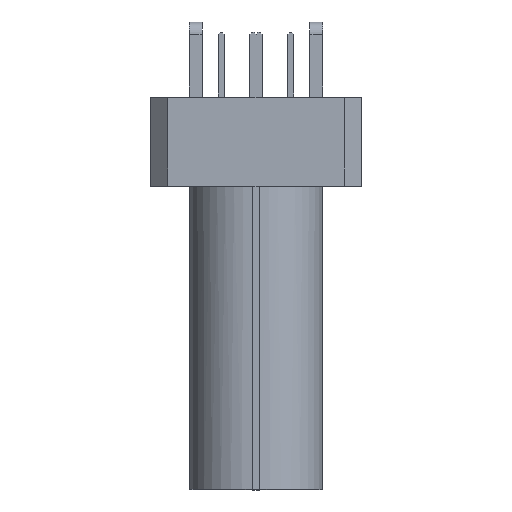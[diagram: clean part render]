
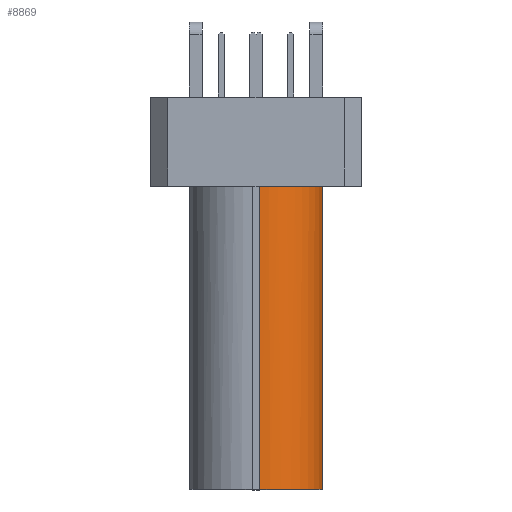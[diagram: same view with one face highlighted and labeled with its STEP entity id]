
A CAD part, top view. The second image highlights one B-rep face of the part: STEP entity #8869.
In plain terms, the highlighted cylindrical face has radius 1.5 mm (diameter 3 mm), a partial arc.
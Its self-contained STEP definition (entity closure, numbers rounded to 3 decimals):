
#780 = CARTESIAN_POINT ( 'NONE',  ( 0.08, 2.3, 4.47 ) ) ;
#1294 = CARTESIAN_POINT ( 'NONE',  ( 0.08, -4.9, 2.97 ) ) ;
#1373 = DIRECTION ( 'NONE',  ( 0., 0., 1. ) ) ;
#1861 = VECTOR ( 'NONE', #12221, 1000. ) ;
#2401 = AXIS2_PLACEMENT_3D ( 'NONE', #1294, #6469, #6540 ) ;
#2464 = CARTESIAN_POINT ( 'NONE',  ( 1.58, 2.3, 2.97 ) ) ;
#2707 = AXIS2_PLACEMENT_3D ( 'NONE', #9151, #6025, #10479 ) ;
#2929 = CIRCLE ( 'NONE', #2707, 1.5 ) ;
#3308 = CIRCLE ( 'NONE', #6196, 1.5 ) ;
#3475 = CARTESIAN_POINT ( 'NONE',  ( 0.08, -4.9, 4.47 ) ) ;
#3783 = ORIENTED_EDGE ( 'NONE', *, *, #8069, .F. ) ;
#4079 = DIRECTION ( 'NONE',  ( 0., -1., 0. ) ) ;
#4170 = CYLINDRICAL_SURFACE ( 'NONE', #11820, 1.5 ) ;
#4507 = VERTEX_POINT ( 'NONE', #13254 ) ;
#5477 = VERTEX_POINT ( 'NONE', #9088 ) ;
#5882 = LINE ( 'NONE', #2464, #1861 ) ;
#5909 = EDGE_CURVE ( 'NONE', #5986, #6810, #11984, .T. ) ;
#5934 = ORIENTED_EDGE ( 'NONE', *, *, #11713, .T. ) ;
#5986 = VERTEX_POINT ( 'NONE', #3475 ) ;
#6025 = DIRECTION ( 'NONE',  ( 0., -1., 0. ) ) ;
#6188 = EDGE_CURVE ( 'NONE', #6485, #5477, #3308, .T. ) ;
#6196 = AXIS2_PLACEMENT_3D ( 'NONE', #13507, #4079, #10358 ) ;
#6469 = DIRECTION ( 'NONE',  ( 0., 1., 0. ) ) ;
#6485 = VERTEX_POINT ( 'NONE', #11121 ) ;
#6540 = DIRECTION ( 'NONE',  ( 0., 0., 1. ) ) ;
#6810 = VERTEX_POINT ( 'NONE', #12722 ) ;
#7204 = LINE ( 'NONE', #780, #8564 ) ;
#7826 = EDGE_CURVE ( 'NONE', #5477, #5986, #7204, .T. ) ;
#8069 = EDGE_CURVE ( 'NONE', #4507, #6810, #5882, .T. ) ;
#8126 = EDGE_LOOP ( 'NONE', ( #9640, #11249, #3783, #5934, #11712 ) ) ;
#8420 = CARTESIAN_POINT ( 'NONE',  ( 0.08, 2.458, 2.97 ) ) ;
#8564 = VECTOR ( 'NONE', #10280, 1000. ) ;
#8869 = ADVANCED_FACE ( 'NONE', ( #12688 ), #4170, .T. ) ;
#9088 = CARTESIAN_POINT ( 'NONE',  ( 0.08, 2.3, 4.47 ) ) ;
#9151 = CARTESIAN_POINT ( 'NONE',  ( 0.08, 2.3, 2.97 ) ) ;
#9640 = ORIENTED_EDGE ( 'NONE', *, *, #7826, .T. ) ;
#10280 = DIRECTION ( 'NONE',  ( 0., -1., 0. ) ) ;
#10358 = DIRECTION ( 'NONE',  ( 0.78, 0., 0.626 ) ) ;
#10479 = DIRECTION ( 'NONE',  ( 1., 0., 0. ) ) ;
#11121 = CARTESIAN_POINT ( 'NONE',  ( 1.25, 2.3, 3.909 ) ) ;
#11249 = ORIENTED_EDGE ( 'NONE', *, *, #5909, .T. ) ;
#11641 = DIRECTION ( 'NONE',  ( 0., -1., 0. ) ) ;
#11712 = ORIENTED_EDGE ( 'NONE', *, *, #6188, .T. ) ;
#11713 = EDGE_CURVE ( 'NONE', #4507, #6485, #2929, .T. ) ;
#11820 = AXIS2_PLACEMENT_3D ( 'NONE', #8420, #11641, #1373 ) ;
#11984 = CIRCLE ( 'NONE', #2401, 1.5 ) ;
#12221 = DIRECTION ( 'NONE',  ( 0., -1., 0. ) ) ;
#12688 = FACE_OUTER_BOUND ( 'NONE', #8126, .T. ) ;
#12722 = CARTESIAN_POINT ( 'NONE',  ( 1.58, -4.9, 2.97 ) ) ;
#13254 = CARTESIAN_POINT ( 'NONE',  ( 1.58, 2.3, 2.97 ) ) ;
#13507 = CARTESIAN_POINT ( 'NONE',  ( 0.08, 2.3, 2.97 ) ) ;
